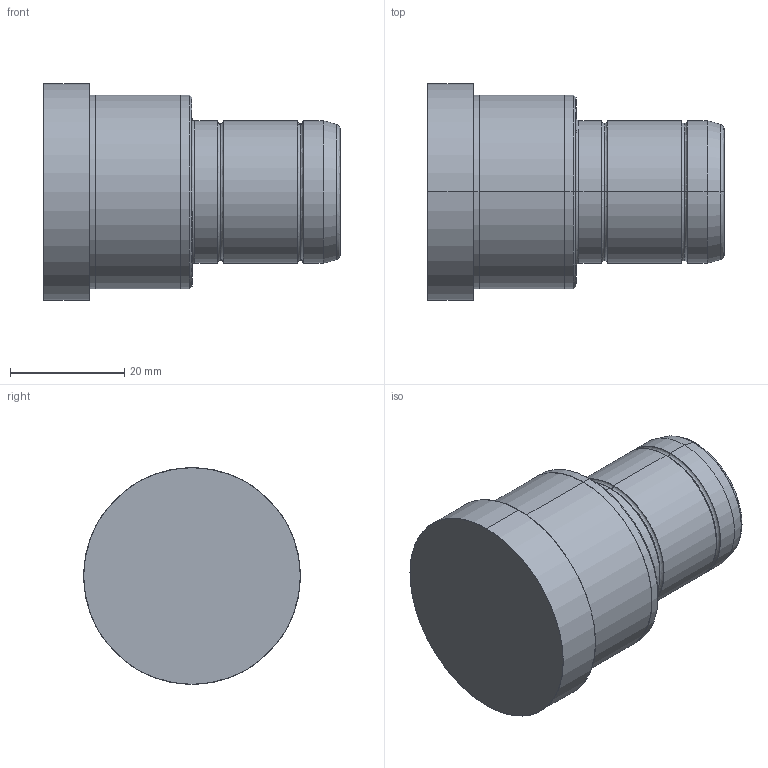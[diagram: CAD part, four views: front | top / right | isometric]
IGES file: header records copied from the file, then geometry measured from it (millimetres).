
Start section: SolidWorks IGES file using analytic representation for surfaces
Global section: file name: C:\Documents and Settings\kalite-mail\Desktop\IGS\D02\25\D02 - 25x26x26.IGS; native system: SolidWorks 2008; preprocessor: SolidWorks 2008; author: kalite-mail; date: 080616.171659; units: millimetre
Bounding box: 52 x 38 x 38 mm (x, y, z)
Surface area: 7148.6 mm2 (no closed solid volume)
Topology: 0 solids, 0 shells, 36 faces, 696 edges, 696 vertices
Faces by surface type: bspline 18, revolution 18
